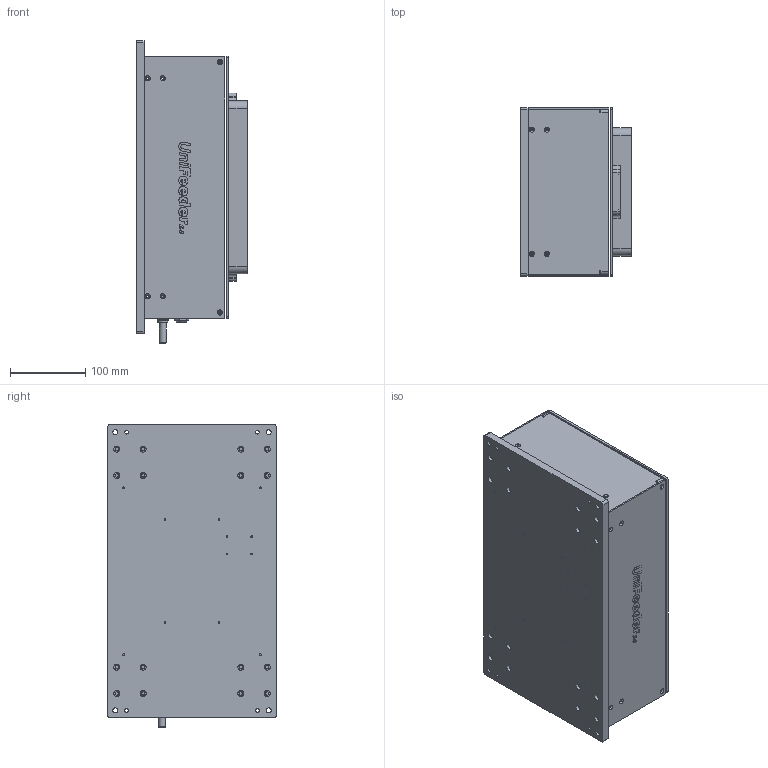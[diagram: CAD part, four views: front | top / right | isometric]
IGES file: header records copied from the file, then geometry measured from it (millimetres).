
Global section: file name: UniFeeder3.0 - R2(share); native system: Autodesk Inventor 2024; preprocessor: unknown; author: houns; date: 20260521.231426; units: millimetre
Bounding box: 147.5 x 224 x 402.5 mm (x, y, z)
Volume: 1552781.6 mm3; surface area: 656616.1 mm2
Topology: 11 solids, 11 shells, 2027 faces, 5514 edges, 3700 vertices
Faces by surface type: bspline 2027
